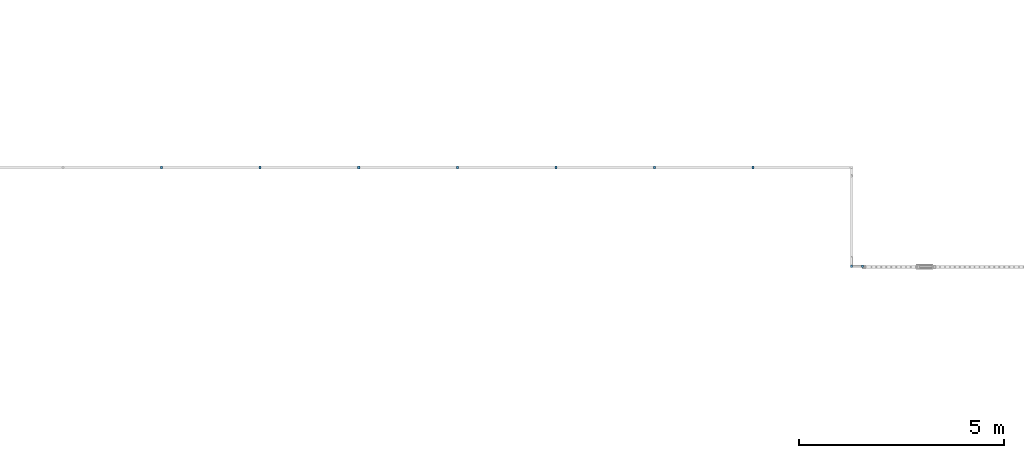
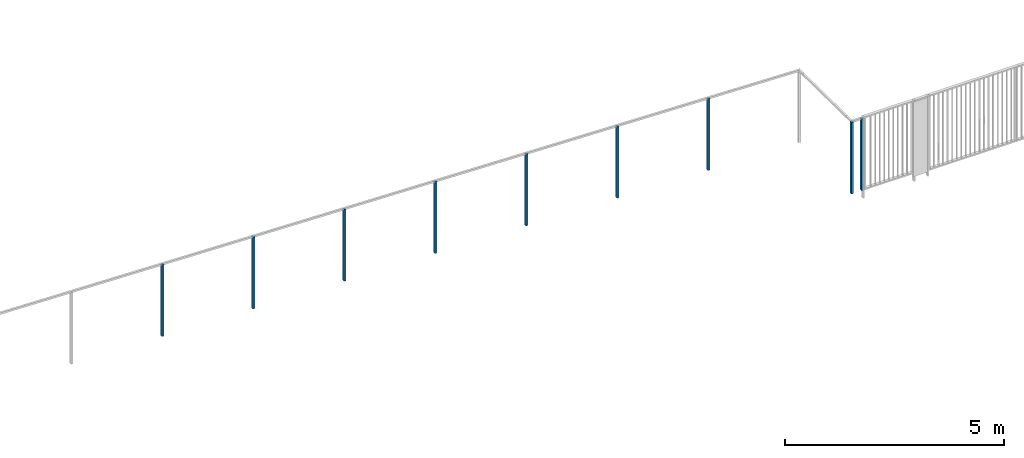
# One storey, part 73 of 91: 9 building element parts, 1 element without a shape of its own.
"""IFC2X3 building model written with IfcOpenShell, lengths in metres."""

from ifc_helpers import new_model, entity, si_unit, converted_unit, derived_unit, money_unit, direction, frame, origin_with_axes, place, context, subcontext, project, spatial, faceted_brep, material, type_object, element, aggregate, save


model = new_model("IFC2X3")

# Units and contexts
model_context = context("Model", 3, precision=1e-05, world=origin_with_axes(), true_north=direction((0.0, 1.0)))
body_context = subcontext(model_context, "Body", "Model", "MODEL_VIEW")
ifc_project = project(units=[si_unit("LENGTHUNIT", "METRE"), si_unit("AREAUNIT", "SQUARE_METRE"), si_unit("VOLUMEUNIT", "CUBIC_METRE"), converted_unit("PLANEANGLEUNIT", "DEGREE", entity("IfcPlaneAngleMeasure", 0.0174532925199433), si_unit("PLANEANGLEUNIT", "RADIAN"), dimensions=[0, 0, 0, 0, 0, 0, 0]), money_unit("EUR"), converted_unit("TIMEUNIT", "Year", entity("IfcTimeMeasure", 31557600.0), si_unit("TIMEUNIT", "SECOND"), dimensions=[0, 0, 1, 0, 0, 0, 0]), si_unit("MASSUNIT", "GRAM", prefix="KILO"), si_unit("THERMODYNAMICTEMPERATUREUNIT", "DEGREE_CELSIUS"), si_unit("LUMINOUSINTENSITYUNIT", "LUMEN"), si_unit("ENERGYUNIT", "JOULE", prefix="MEGA"), derived_unit("THERMALCONDUCTANCEUNIT", [(si_unit("POWERUNIT", "WATT"), 1), (si_unit("LENGTHUNIT", "METRE"), -1), (si_unit("THERMODYNAMICTEMPERATUREUNIT", "KELVIN"), -1)]), derived_unit("SPECIFICHEATCAPACITYUNIT", [(si_unit("ENERGYUNIT", "JOULE"), 1), (si_unit("MASSUNIT", "GRAM", prefix="KILO"), -1), (si_unit("THERMODYNAMICTEMPERATUREUNIT", "KELVIN"), -1)]), derived_unit("MASSDENSITYUNIT", [(si_unit("MASSUNIT", "GRAM", prefix="KILO"), 1), (si_unit("VOLUMEUNIT", "CUBIC_METRE"), -1)])], contexts=[model_context])

# Site, building, storey
site_placement = place(None, origin_with_axes())
site = spatial("IfcSite", under=ifc_project, at=site_placement, Name="Site", CompositionType="ELEMENT")
building_placement = place(site_placement, origin_with_axes())
building = spatial("IfcBuilding", under=site, at=building_placement, Name="Bâtiment", CompositionType="ELEMENT")
storey_placement = place(building_placement, origin_with_axes())
storey = spatial("IfcBuildingStorey", under=building, at=storey_placement, Name="RDC", CompositionType="ELEMENT", Elevation=0.0)

# Proxy, building element parts
building_element_proxy_type = type_object("IfcBuildingElementProxyType", Name="Type de garde-corps", PredefinedType="NOTDEFINED")
proxy_placement = place(storey_placement, frame((79.63337255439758, 3.614023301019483, -2.37161404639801), z_axis=(0.0, 0.0, 1.0), x_axis=(1.0, 0.0, 0.0)))
proxy = element("IfcBuildingElementProxy", 1, at=proxy_placement, inside=storey, type_object=building_element_proxy_type, Name="RAMPE-004")
ifc_material = material(Name="Acier Galva")
building_element_part_1_placement = place(proxy_placement, origin_with_axes())
building_element_part_1 = element("IfcBuildingElementPart", 2, at=building_element_part_1_placement, material=ifc_material, Name="Acier Galva", context=body_context, shape_type="Brep", body=[
    faceted_brep([(1.577995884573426, 1.013013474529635, 0.81154979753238), (1.577995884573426, 0.9470134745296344, 0.81154979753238), (1.577995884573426, 0.9470134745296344, 2.81154979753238), (1.577995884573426, 1.013013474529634, 2.81154979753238), (1.627995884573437, 1.013013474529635, 0.81154979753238), (1.627995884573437, 0.9470134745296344, 0.81154979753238), (1.627995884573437, 0.9470134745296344, 2.81154979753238), (1.627995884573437, 1.013013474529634, 2.81154979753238)], [[[0, 1, 2, 3]], [[0, 4, 5, 1]], [[1, 5, 6, 2]], [[3, 2, 6, 7]], [[4, 0, 3, 7]], [[5, 4, 7, 6]]]),
])
building_element_part_2_placement = place(proxy_placement, origin_with_axes())
building_element_part_2 = element("IfcBuildingElementPart", 3, at=building_element_part_2_placement, material=ifc_material, Name="Acier Galva", context=body_context, shape_type="Brep", body=[
    faceted_brep([(1.315188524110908, 1.013013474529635, 0.8114746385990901), (1.315188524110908, 0.9470134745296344, 0.811856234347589), (1.315188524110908, 0.9470134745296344, 2.81154979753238), (1.315188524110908, 1.013013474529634, 2.81154979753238), (1.36518852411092, 1.013013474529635, 0.8114746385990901), (1.36518852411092, 0.9470134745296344, 0.811856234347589), (1.36518852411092, 0.9470134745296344, 2.81154979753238), (1.36518852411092, 1.013013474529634, 2.81154979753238)], [[[0, 1, 2, 3]], [[0, 4, 5, 1]], [[1, 5, 6, 2]], [[3, 2, 6, 7]], [[4, 0, 3, 7]], [[5, 4, 7, 6]]]),
])
building_element_part_3_placement = place(proxy_placement, origin_with_axes())
building_element_part_3 = element("IfcBuildingElementPart", 4, at=building_element_part_3_placement, material=ifc_material, Name="Acier Galva", context=body_context, shape_type="Brep", body=[
    faceted_brep([(-1.083464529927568, 3.413015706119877, 0.8535964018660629), (-1.08347675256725, 3.347015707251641, 0.8535964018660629), (-1.08347675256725, 3.347015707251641, 2.853596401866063), (-1.083464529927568, 3.413015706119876, 2.853596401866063), (-1.033464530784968, 3.413006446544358, 0.8521683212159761), (-1.033476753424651, 3.347006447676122, 0.8521683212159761), (-1.033476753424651, 3.347006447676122, 2.852168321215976), (-1.033464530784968, 3.413006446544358, 2.852168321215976)], [[[0, 1, 2, 3]], [[0, 4, 5, 1]], [[1, 5, 6, 2]], [[3, 2, 6, 7]], [[4, 0, 3, 7]], [[5, 4, 7, 6]]]),
])
building_element_part_4_placement = place(proxy_placement, origin_with_axes())
building_element_part_4 = element("IfcBuildingElementPart", 5, at=building_element_part_4_placement, material=ifc_material, Name="Acier Galva", context=body_context, shape_type="Brep", body=[
    faceted_brep([(-3.482123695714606, 3.413459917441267, 0.9221059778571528), (-3.482135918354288, 3.347459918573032, 0.9221059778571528), (-3.482135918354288, 3.347459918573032, 2.922105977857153), (-3.482123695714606, 3.413459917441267, 2.922105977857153), (-3.432123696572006, 3.413450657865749, 0.9206778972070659), (-3.432135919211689, 3.347450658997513, 0.9206778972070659), (-3.432135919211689, 3.347450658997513, 2.920677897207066), (-3.432123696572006, 3.413450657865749, 2.920677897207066)], [[[0, 1, 2, 3]], [[0, 4, 5, 1]], [[1, 5, 6, 2]], [[3, 2, 6, 7]], [[4, 0, 3, 7]], [[5, 4, 7, 6]]]),
])
building_element_part_5_placement = place(proxy_placement, origin_with_axes())
building_element_part_5 = element("IfcBuildingElementPart", 6, at=building_element_part_5_placement, material=ifc_material, Name="Acier Galva", context=body_context, shape_type="Brep", body=[
    faceted_brep([(-5.880782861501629, 3.413904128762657, 0.9906155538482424), (-5.880795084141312, 3.347904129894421, 0.9906155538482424), (-5.880795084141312, 3.347904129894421, 2.990615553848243), (-5.880782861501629, 3.413904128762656, 2.990615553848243), (-5.83078286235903, 3.413894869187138, 0.9891874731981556), (-5.830795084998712, 3.347894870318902, 0.9891874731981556), (-5.830795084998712, 3.347894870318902, 2.989187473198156), (-5.83078286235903, 3.413894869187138, 2.989187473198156)], [[[0, 1, 2, 3]], [[0, 4, 5, 1]], [[1, 5, 6, 2]], [[3, 2, 6, 7]], [[4, 0, 3, 7]], [[5, 4, 7, 6]]]),
])
building_element_part_6_placement = place(proxy_placement, origin_with_axes())
building_element_part_6 = element("IfcBuildingElementPart", 7, at=building_element_part_6_placement, material=ifc_material, Name="Acier Galva", context=body_context, shape_type="Brep", body=[
    faceted_brep([(-8.279442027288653, 3.414348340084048, 1.059125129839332), (-8.279454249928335, 3.348348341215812, 1.059125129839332), (-8.279454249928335, 3.348348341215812, 3.059125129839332), (-8.279442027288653, 3.414348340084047, 3.059125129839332), (-8.229442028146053, 3.414339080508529, 1.057697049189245), (-8.229454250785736, 3.348339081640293, 1.057697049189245), (-8.229454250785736, 3.348339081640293, 3.057697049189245), (-8.229442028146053, 3.414339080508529, 3.057697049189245)], [[[0, 1, 2, 3]], [[0, 4, 5, 1]], [[1, 5, 6, 2]], [[3, 2, 6, 7]], [[4, 0, 3, 7]], [[5, 4, 7, 6]]]),
])
building_element_part_7_placement = place(proxy_placement, origin_with_axes())
building_element_part_7 = element("IfcBuildingElementPart", 8, at=building_element_part_7_placement, material=ifc_material, Name="Acier Galva", context=body_context, shape_type="Brep", body=[
    faceted_brep([(-10.67810119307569, 3.414792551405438, 1.127634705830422), (-10.67811341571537, 3.348792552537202, 1.127634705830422), (-10.67811341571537, 3.348792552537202, 3.127634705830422), (-10.67810119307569, 3.414792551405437, 3.127634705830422), (-10.62810119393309, 3.414783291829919, 1.126206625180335), (-10.62811341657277, 3.348783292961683, 1.126206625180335), (-10.62811341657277, 3.348783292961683, 3.126206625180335), (-10.62810119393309, 3.414783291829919, 3.126206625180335)], [[[0, 1, 2, 3]], [[0, 4, 5, 1]], [[1, 5, 6, 2]], [[3, 2, 6, 7]], [[4, 0, 3, 7]], [[5, 4, 7, 6]]]),
])
building_element_part_8_placement = place(proxy_placement, origin_with_axes())
building_element_part_8 = element("IfcBuildingElementPart", 9, at=building_element_part_8_placement, material=ifc_material, Name="Acier Galva", context=body_context, shape_type="Brep", body=[
    faceted_brep([(-13.07676035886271, 3.415236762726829, 1.196144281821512), (-13.0767725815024, 3.349236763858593, 1.196144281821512), (-13.0767725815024, 3.349236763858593, 3.196144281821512), (-13.07676035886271, 3.415236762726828, 3.196144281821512), (-13.02676035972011, 3.41522750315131, 1.194716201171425), (-13.0267725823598, 3.349227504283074, 1.194716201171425), (-13.0267725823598, 3.349227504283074, 3.194716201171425), (-13.02676035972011, 3.41522750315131, 3.194716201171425)], [[[0, 1, 2, 3]], [[0, 4, 5, 1]], [[1, 5, 6, 2]], [[3, 2, 6, 7]], [[4, 0, 3, 7]], [[5, 4, 7, 6]]]),
])
building_element_part_9_placement = place(proxy_placement, origin_with_axes())
building_element_part_9 = element("IfcBuildingElementPart", 10, at=building_element_part_9_placement, material=ifc_material, Name="Acier Galva", context=body_context, shape_type="Brep", body=[
    faceted_brep([(-15.47541952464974, 3.415680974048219, 1.264653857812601), (-15.47543174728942, 3.349680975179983, 1.264653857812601), (-15.47543174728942, 3.349680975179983, 3.264653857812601), (-15.47541952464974, 3.415680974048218, 3.264653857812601), (-15.42541952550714, 3.4156717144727, 1.263225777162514), (-15.42543174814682, 3.349671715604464, 1.263225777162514), (-15.42543174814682, 3.349671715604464, 3.263225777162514), (-15.42541952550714, 3.4156717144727, 3.263225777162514)], [[[0, 1, 2, 3]], [[0, 4, 5, 1]], [[1, 5, 6, 2]], [[3, 2, 6, 7]], [[4, 0, 3, 7]], [[5, 4, 7, 6]]]),
])
aggregate(proxy, [building_element_part_1, building_element_part_2, building_element_part_3, building_element_part_4, building_element_part_5, building_element_part_6, building_element_part_7, building_element_part_8, building_element_part_9])

save(model, "model.ifc")
